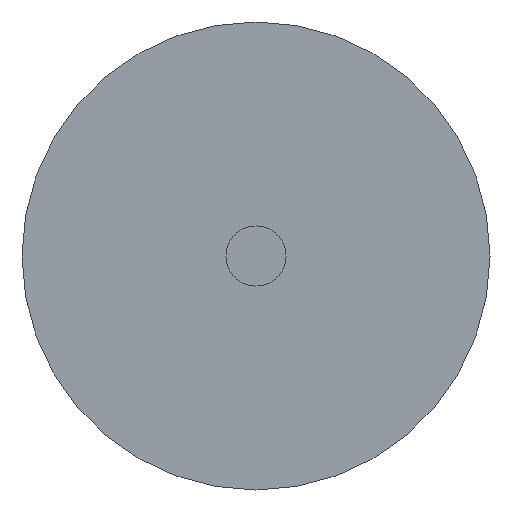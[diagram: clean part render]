
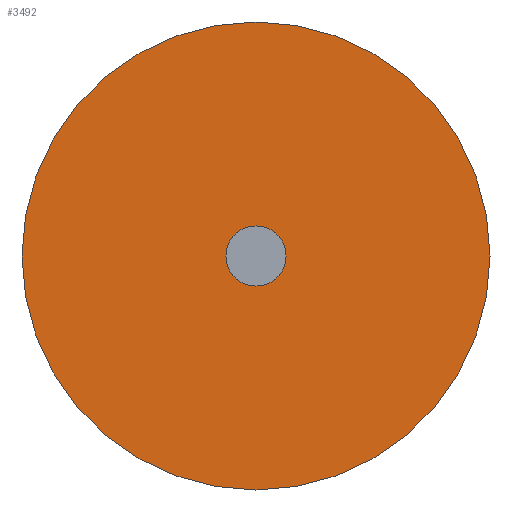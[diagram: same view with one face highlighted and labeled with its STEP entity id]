
A CAD part, front view. The second image highlights one B-rep face of the part: STEP entity #3492.
In plain terms, the highlighted planar face has unit normal (0, -1, 0).
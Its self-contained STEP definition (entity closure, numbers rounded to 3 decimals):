
#3192=CARTESIAN_POINT('',(70.,-27.5,0.0));
#3193=VERTEX_POINT('',#3192);
#3209=CARTESIAN_POINT('',(-70.,-27.5,0.));
#3210=VERTEX_POINT('',#3209);
#3217=CARTESIAN_POINT('',(0.0,-27.5,0.0));
#3218=DIRECTION('',(0.0,-1.0,0.0));
#3219=DIRECTION('',(1.0,0.0,0.0));
#3220=AXIS2_PLACEMENT_3D('',#3217,#3218,#3219);
#3221=CIRCLE('',#3220,70.);
#3222=EDGE_CURVE('',#3193,#3210,#3221,.T.);
#3284=CARTESIAN_POINT('',(9.,-27.5,0.0));
#3285=VERTEX_POINT('',#3284);
#3310=CARTESIAN_POINT('',(-9.,-27.5,0.));
#3311=VERTEX_POINT('',#3310);
#3318=CARTESIAN_POINT('',(0.0,-27.5,0.0));
#3319=DIRECTION('',(0.0,-1.0,0.0));
#3320=DIRECTION('',(1.0,0.0,0.0));
#3321=AXIS2_PLACEMENT_3D('',#3318,#3319,#3320);
#3322=CIRCLE('',#3321,9.);
#3323=EDGE_CURVE('',#3311,#3285,#3322,.T.);
#3402=CARTESIAN_POINT('',(0.0,-27.5,0.0));
#3403=DIRECTION('',(0.0,-1.0,0.0));
#3404=DIRECTION('',(1.0,0.0,0.0));
#3405=AXIS2_PLACEMENT_3D('',#3402,#3403,#3404);
#3406=CIRCLE('',#3405,9.);
#3407=EDGE_CURVE('',#3285,#3311,#3406,.T.);
#3467=CARTESIAN_POINT('',(0.0,-27.5,0.0));
#3468=DIRECTION('',(0.0,-1.0,0.0));
#3469=DIRECTION('',(1.0,0.0,0.0));
#3470=AXIS2_PLACEMENT_3D('',#3467,#3468,#3469);
#3471=CIRCLE('',#3470,70.);
#3472=EDGE_CURVE('',#3210,#3193,#3471,.T.);
#3479=CARTESIAN_POINT('',(39.5,-27.5,0.0));
#3480=DIRECTION('',(0.0,-1.0,0.0));
#3481=DIRECTION('',(0.0,0.0,-1.0));
#3482=AXIS2_PLACEMENT_3D('',#3479,#3480,#3481);
#3483=PLANE('',#3482);
#3484=ORIENTED_EDGE('',*,*,#3222,.T.);
#3485=ORIENTED_EDGE('',*,*,#3472,.T.);
#3486=EDGE_LOOP('',(#3484,#3485));
#3487=FACE_OUTER_BOUND('',#3486,.T.);
#3488=ORIENTED_EDGE('',*,*,#3407,.F.);
#3489=ORIENTED_EDGE('',*,*,#3323,.F.);
#3490=EDGE_LOOP('',(#3488,#3489));
#3491=FACE_BOUND('',#3490,.T.);
#3492=ADVANCED_FACE('',(#3487,#3491),#3483,.T.);
